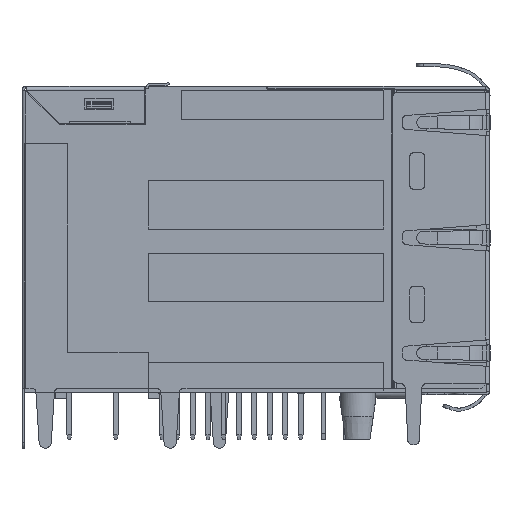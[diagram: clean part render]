
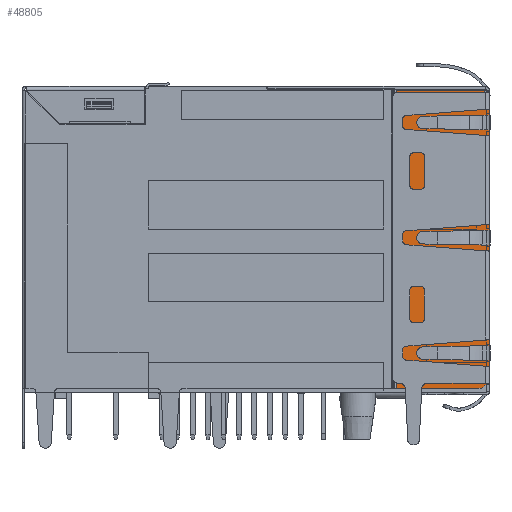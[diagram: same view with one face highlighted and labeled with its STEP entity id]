
A CAD part, left-side view. The second image highlights one B-rep face of the part: STEP entity #48805.
In plain terms, the highlighted planar face has unit normal (-1, 0, 0) as drawn and (0, 0, -1) by its records, which use the part's own axes.
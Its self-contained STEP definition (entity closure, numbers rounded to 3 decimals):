
#496 = VERTEX_POINT ( 'NONE', #62502 ) ;
#2504 = VECTOR ( 'NONE', #110660, 1000. ) ;
#3888 = PLANE ( 'NONE',  #116775 ) ;
#5546 = VECTOR ( 'NONE', #6474, 1000. ) ;
#6265 = CARTESIAN_POINT ( 'NONE',  ( -34.164, 12.35, -29.39 ) ) ;
#6474 = DIRECTION ( 'NONE',  ( 0., 1., 0. ) ) ;
#13390 = ORIENTED_EDGE ( 'NONE', *, *, #38894, .T. ) ;
#15245 = DIRECTION ( 'NONE',  ( -1., 0., 0. ) ) ;
#17125 = VERTEX_POINT ( 'NONE', #58256 ) ;
#18247 = LINE ( 'NONE', #45802, #5546 ) ;
#21877 = AXIS2_PLACEMENT_3D ( 'NONE', #94961, #65059, #38709 ) ;
#24732 = ORIENTED_EDGE ( 'NONE', *, *, #84017, .T. ) ;
#25447 = VERTEX_POINT ( 'NONE', #100154 ) ;
#25699 = VECTOR ( 'NONE', #61510, 1000. ) ;
#26250 = CARTESIAN_POINT ( 'NONE',  ( -34.164, -12.35, -29.39 ) ) ;
#36585 = CARTESIAN_POINT ( 'NONE',  ( -38.469, -11.35, -29.39 ) ) ;
#38709 = DIRECTION ( 'NONE',  ( 0., -1., 0. ) ) ;
#38894 = EDGE_CURVE ( 'NONE', #48448, #116825, #67231, .T. ) ;
#39178 = ORIENTED_EDGE ( 'NONE', *, *, #95860, .F. ) ;
#40161 = DIRECTION ( 'NONE',  ( 0., 0., -1. ) ) ;
#45394 = LINE ( 'NONE', #26250, #2504 ) ;
#45802 = CARTESIAN_POINT ( 'NONE',  ( -30.858, 0., -29.39 ) ) ;
#48448 = VERTEX_POINT ( 'NONE', #49517 ) ;
#48805 = ADVANCED_FACE ( 'NONE', ( #49380 ), #3888, .T. ) ;
#49380 = FACE_OUTER_BOUND ( 'NONE', #99150, .T. ) ;
#49517 = CARTESIAN_POINT ( 'NONE',  ( -37.469, -12.35, -29.39 ) ) ;
#51773 = EDGE_CURVE ( 'NONE', #48448, #25447, #45394, .T. ) ;
#58256 = CARTESIAN_POINT ( 'NONE',  ( -37.469, 12.35, -29.39 ) ) ;
#59667 = VECTOR ( 'NONE', #15245, 1000. ) ;
#61510 = DIRECTION ( 'NONE',  ( 0., -1., 0. ) ) ;
#62502 = CARTESIAN_POINT ( 'NONE',  ( -30.858, 12.35, -29.39 ) ) ;
#65059 = DIRECTION ( 'NONE',  ( 0., 0., -1. ) ) ;
#67231 = CIRCLE ( 'NONE', #74818, 1. ) ;
#73488 = CIRCLE ( 'NONE', #21877, 1. ) ;
#74818 = AXIS2_PLACEMENT_3D ( 'NONE', #85626, #40161, #76657 ) ;
#75133 = DIRECTION ( 'NONE',  ( 0., -1., 0. ) ) ;
#76657 = DIRECTION ( 'NONE',  ( 0., -1., 0. ) ) ;
#77041 = ORIENTED_EDGE ( 'NONE', *, *, #109746, .F. ) ;
#78281 = CARTESIAN_POINT ( 'NONE',  ( -38.469, 0., -29.39 ) ) ;
#83678 = EDGE_CURVE ( 'NONE', #105834, #116825, #98064, .T. ) ;
#84017 = EDGE_CURVE ( 'NONE', #105834, #17125, #73488, .T. ) ;
#85626 = CARTESIAN_POINT ( 'NONE',  ( -37.469, -11.35, -29.39 ) ) ;
#92081 = CARTESIAN_POINT ( 'NONE',  ( -38.469, 11.35, -29.39 ) ) ;
#94961 = CARTESIAN_POINT ( 'NONE',  ( -37.469, 11.35, -29.39 ) ) ;
#95814 = ORIENTED_EDGE ( 'NONE', *, *, #83678, .F. ) ;
#95860 = EDGE_CURVE ( 'NONE', #25447, #496, #18247, .T. ) ;
#98064 = LINE ( 'NONE', #78281, #25699 ) ;
#99150 = EDGE_LOOP ( 'NONE', ( #39178, #116934, #13390, #95814, #24732, #77041 ) ) ;
#100154 = CARTESIAN_POINT ( 'NONE',  ( -30.858, -12.35, -29.39 ) ) ;
#103317 = CARTESIAN_POINT ( 'NONE',  ( -30.858, -12.35, -29.39 ) ) ;
#103911 = DIRECTION ( 'NONE',  ( 0., 0., -1. ) ) ;
#104516 = LINE ( 'NONE', #6265, #59667 ) ;
#105834 = VERTEX_POINT ( 'NONE', #92081 ) ;
#109746 = EDGE_CURVE ( 'NONE', #496, #17125, #104516, .T. ) ;
#110660 = DIRECTION ( 'NONE',  ( 1., 0., 0. ) ) ;
#116775 = AXIS2_PLACEMENT_3D ( 'NONE', #103317, #103911, #75133 ) ;
#116825 = VERTEX_POINT ( 'NONE', #36585 ) ;
#116934 = ORIENTED_EDGE ( 'NONE', *, *, #51773, .F. ) ;
